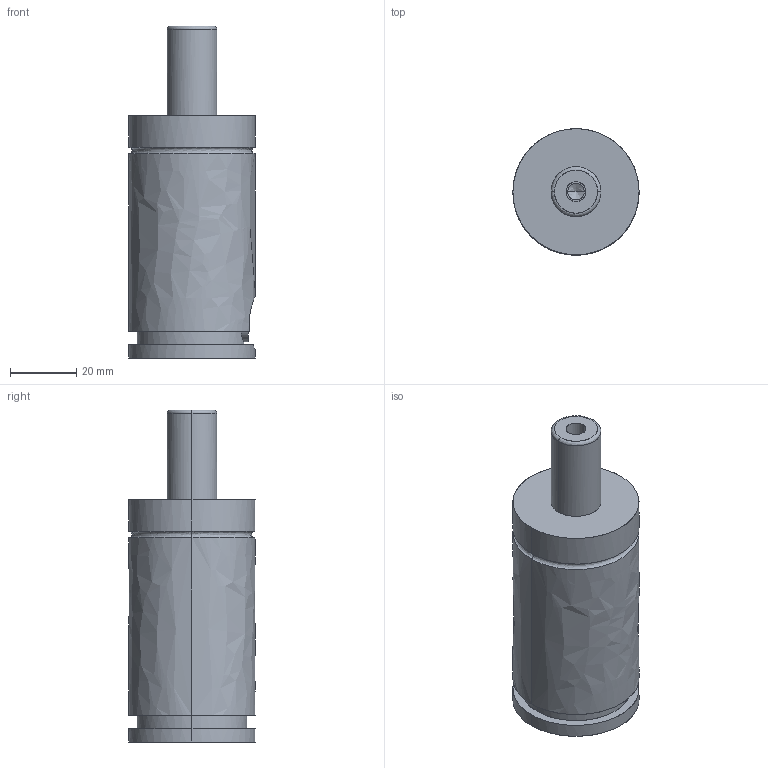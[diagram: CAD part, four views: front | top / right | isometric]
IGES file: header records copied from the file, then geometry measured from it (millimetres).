
Global section: file name: E:\UnigraphicsGraphicData\MISUMI_PRESS-PARTS\IGES\3d_gse38-25_03868_r00.igs; native system: NX V5.0; preprocessor: UGS NX IGES V5.0; author: MISUMI; date: 20110105.160755; units: millimetre
Bounding box: 38 x 38.02 x 100 mm (x, y, z)
Surface area: 13964.8 mm2 (no closed solid volume)
Topology: 0 solids, 0 shells, 57 faces, 430 edges, 428 vertices
Faces by surface type: bspline 57
